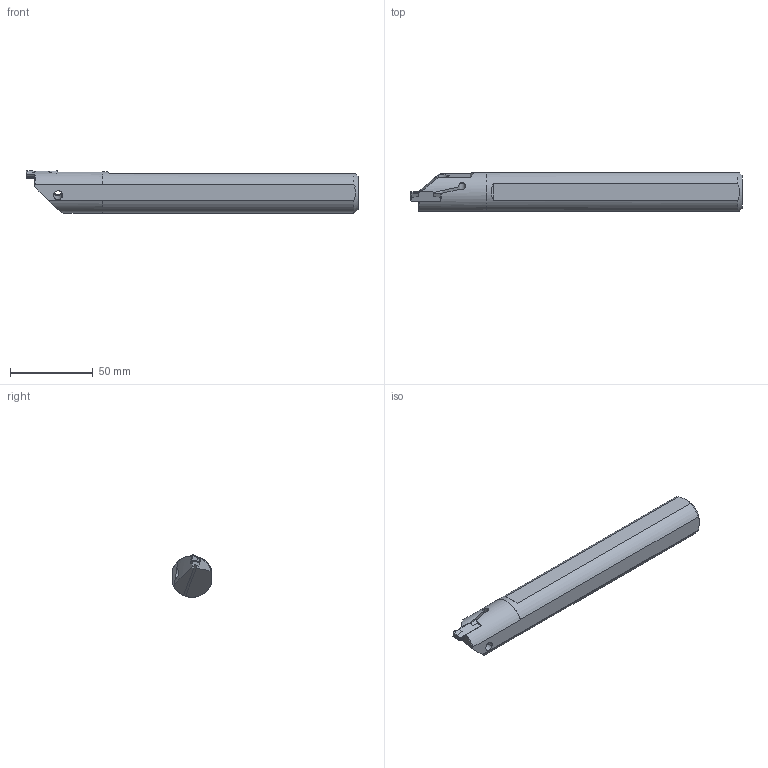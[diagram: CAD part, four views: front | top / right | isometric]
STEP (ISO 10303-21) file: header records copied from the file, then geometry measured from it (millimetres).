
FILE_DESCRIPTION(('CATIA V5 STEP'),'2;1');
FILE_NAME('N:\data\isr\design\special1\users\POLINA_Z\FILES_FOR_OTHER\OLIVER ZENNER\Datenanfrage Magnet Schultz (29.10.2010)\22-11-2010\2500337-HFIR 25MC.stp','2010-11-23T12:15:44+00:00',('none'),('none'),'CATIA Version 5 Release 19 SP 7 (IN-10)','CATIA V5 STEP AP203 Edition 2','none');
FILE_SCHEMA(('AP203_CONFIGURATION_CONTROLLED_3D_DESIGN_OF_MECHANICAL_PARTS_AND_ASSEMBLIES_MIM_LF { 1 0 10303 403 2 1 2}'));
Length unit declared in the file: millimetre
Products named in the file (3): PRODUCT1; 40104658_0; 10205200-GDD_1 Blank Sintered HFPR 4004
Assembly tree (2 placements, depth 2):
  PRODUCT1
    40104658_0
    10205200-GDD_1 Blank Sintered HFPR 4004
Bounding box: 200.02 x 23 x 25.76 mm (x, y, z)
Volume: 69876.6 mm3; surface area: 22708 mm2
Topology: 2 solids, 2 shells, 186 faces, 546 edges, 361 vertices
Faces by surface type: bspline 84, plane 61, cylinder 17, extrusion 16, cone 8
Entity records: 13943 total; most frequent: CARTESIAN_POINT 9894, ORIENTED_EDGE 1084, EDGE_CURVE 542, DIRECTION 385, VERTEX_POINT 361, B_SPLINE_CURVE_WITH_KNOTS 359, VECTOR 191, EDGE_LOOP 191
